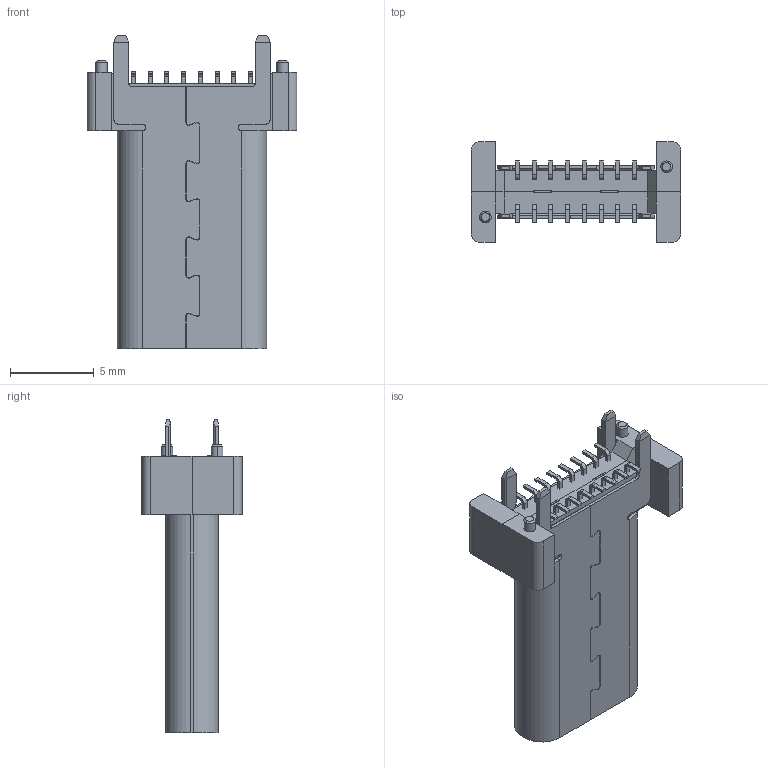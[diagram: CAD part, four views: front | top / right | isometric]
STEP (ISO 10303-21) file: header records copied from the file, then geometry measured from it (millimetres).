
FILE_DESCRIPTION((''),'2;1');
FILE_NAME('TYPE-C_16PIN_H16_5_ASM','2024-09-12T21:32:42',('27716'),('FoxCAVITY'),'CREO PARAMETRIC BY PTC INC, 2021404','CREO PARAMETRIC BY PTC INC, 2021404','');
FILE_SCHEMA(('AUTOMOTIVE_DESIGN { 1 0 10303 214 1 1 1 1 }'));
Length unit declared in the file: millimetre
Products named in the file (9): UP_MD160_1_45_1_1_1_1_1_1_1_1_4; 16P-PIN-DIP-T_1_1_1_1_1_1_2_1_1; MD_ASM_2_ASM_1_ASM_1_ASM_1_AS_3_ASM; MID-ASSE160_ASM_8_ASM_1_ASM_1_3_ASM; 1-MD_ASM_2_ASM_1_ASM_1_ASM_1__7_ASM; 2M_160_86_1_1_1_1_1_1_1_1_1_1_3; FEMALE-H17-5-S_1_1_1_1_1_2_1__3; MID-PLATE160_180_PRT_32_1_1_1_1; TYPE-C_16PIN_H16_5_ASM
Assembly tree (9 placements, depth 4):
  TYPE-C_16PIN_H16_5_ASM
    1-MD_ASM_2_ASM_1_ASM_1_ASM_1__7_ASM
      MD_ASM_2_ASM_1_ASM_1_ASM_1_AS_3_ASM  x2
        UP_MD160_1_45_1_1_1_1_1_1_1_1_4
        16P-PIN-DIP-T_1_1_1_1_1_1_2_1_1
      MID-ASSE160_ASM_8_ASM_1_ASM_1_3_ASM
    2M_160_86_1_1_1_1_1_1_1_1_1_1_3
    FEMALE-H17-5-S_1_1_1_1_1_2_1__3
    MID-PLATE160_180_PRT_32_1_1_1_1
Bounding box: 12.5 x 6 x 18.7 mm (x, y, z)
Volume: 508 mm3; surface area: 2100.7 mm2
Topology: 21 solids, 21 shells, 2092 faces, 5965 edges, 3950 vertices
Faces by surface type: plane 1584, cylinder 468, cone 40
Entity records: 50701 total; most frequent: CARTESIAN_POINT 7585, ORIENTED_EDGE 7226, DIRECTION 6809, EDGE_CURVE 3613, VECTOR 2925, LINE 2925, PRESENTATION_STYLE_ASSIGNMENT 2747, STYLED_ITEM 2747
